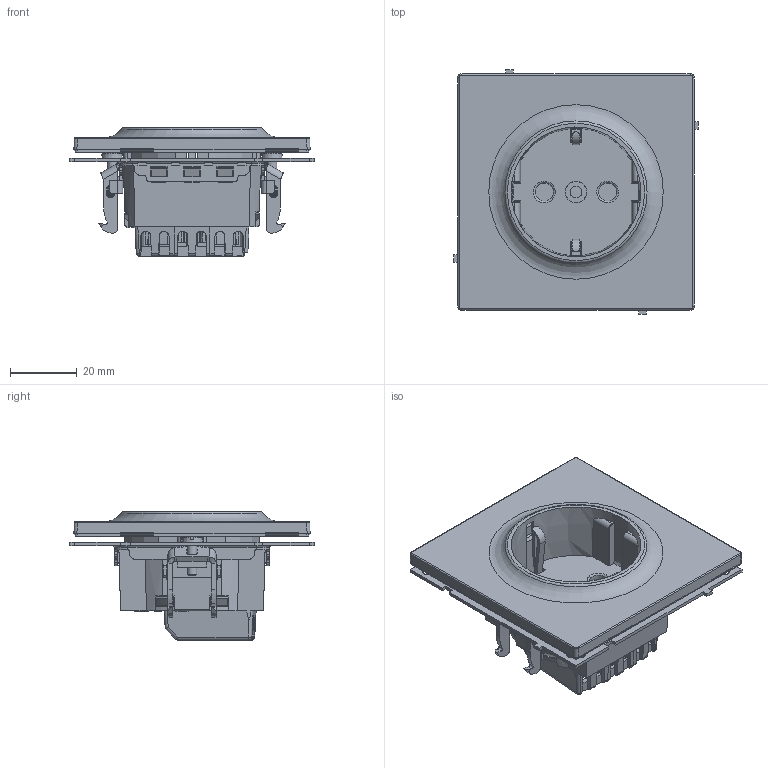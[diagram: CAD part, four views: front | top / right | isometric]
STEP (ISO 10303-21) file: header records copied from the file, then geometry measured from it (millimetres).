
FILE_DESCRIPTION (( 'STEP AP203' ), '1' );
FILE_NAME ('7000003.STEP', '2025-12-05T07:54:20', ( '' ), ( '' ), 'SwSTEP 2.0', 'SolidWorks 2022', '' );
FILE_SCHEMA (( 'CONFIG_CONTROL_DESIGN' ));
Products named in the file (1): 7000003
Bounding box: 73.5 x 73.5 x 38.6 mm (x, y, z)
Volume: 39710.9 mm3; surface area: 45380.4 mm2
Topology: 3 solids, 3 shells, 2424 faces, 6910 edges, 4509 vertices
Faces by surface type: plane 1577, cylinder 367, bspline 290, cone 140, torus 47, sphere 3
Full cylindrical faces by diameter (mm): 2.8 x1, 3 x4, 3.3 x2, 3.8 x2, 5.3 x1, 5.5 x5, 5.9 x1, 41.796 x1
Entity records: 88046 total; most frequent: CARTESIAN_POINT 27732, ORIENTED_EDGE 13692, DIRECTION 10785, EDGE_CURVE 6846, LINE 4771, VECTOR 4771, VERTEX_POINT 4485, AXIS2_PLACEMENT_3D 3007
